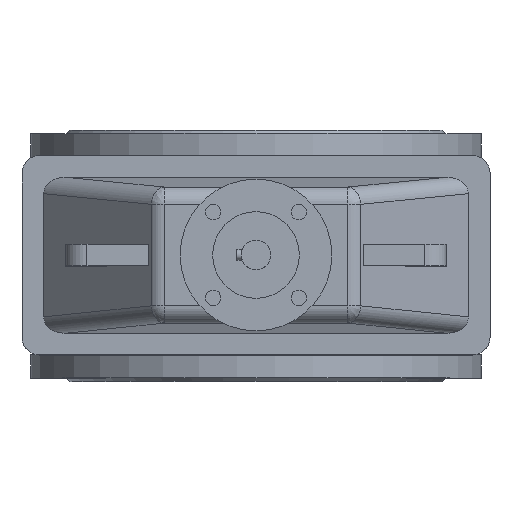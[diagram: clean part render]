
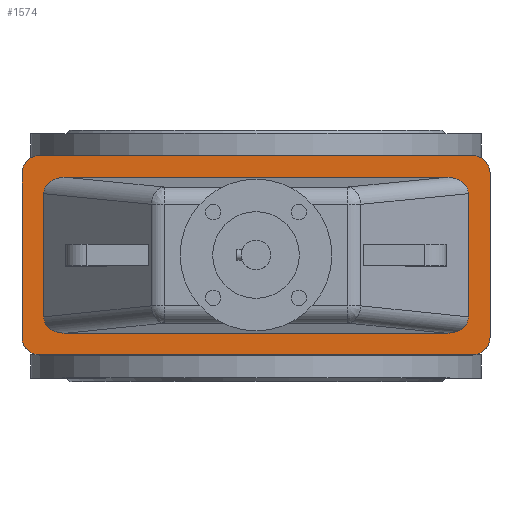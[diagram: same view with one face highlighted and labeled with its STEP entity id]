
A CAD part, top view. The second image highlights one B-rep face of the part: STEP entity #1574.
In plain terms, the highlighted planar face has unit normal (0, 0, 1).
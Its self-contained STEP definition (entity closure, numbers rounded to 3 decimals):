
#1574=ADVANCED_FACE('',(#4082,#4084),#4086,.T.);
#4082=FACE_BOUND('',#4083,.T.);
#4083=EDGE_LOOP('',(#5541,#5542,#5543,#5544,#5545,#5546,#5547,#5548));
#4084=FACE_BOUND('',#4085,.T.);
#4085=EDGE_LOOP('',(#5549,#5550,#5551,#5552,#5553,#5554,#5555,#5556));
#4086=PLANE('',#4087);
#4087=AXIS2_PLACEMENT_3D('',#4088,#4089,#4090);
#4088=CARTESIAN_POINT('',(0.,0.,466.));
#4089=DIRECTION('',(0.,-0.,1.));
#4090=DIRECTION('',(0.,1.,0.));
#5541=ORIENTED_EDGE('',*,*,#6122,.F.);
#5542=ORIENTED_EDGE('',*,*,#6135,.T.);
#5543=ORIENTED_EDGE('',*,*,#6134,.F.);
#5544=ORIENTED_EDGE('',*,*,#6132,.T.);
#5545=ORIENTED_EDGE('',*,*,#6130,.F.);
#5546=ORIENTED_EDGE('',*,*,#6128,.T.);
#5547=ORIENTED_EDGE('',*,*,#6126,.F.);
#5548=ORIENTED_EDGE('',*,*,#6123,.T.);
#5549=ORIENTED_EDGE('',*,*,#6136,.F.);
#5550=ORIENTED_EDGE('',*,*,#6137,.F.);
#5551=ORIENTED_EDGE('',*,*,#6138,.F.);
#5552=ORIENTED_EDGE('',*,*,#6139,.F.);
#5553=ORIENTED_EDGE('',*,*,#6140,.F.);
#5554=ORIENTED_EDGE('',*,*,#6141,.F.);
#5555=ORIENTED_EDGE('',*,*,#6142,.F.);
#5556=ORIENTED_EDGE('',*,*,#6143,.F.);
#6122=EDGE_CURVE('',#6889,#6887,#6891,.F.);
#6123=EDGE_CURVE('',#6892,#6887,#6893,.T.);
#6126=EDGE_CURVE('',#6892,#6895,#6897,.F.);
#6128=EDGE_CURVE('',#6898,#6895,#6900,.T.);
#6130=EDGE_CURVE('',#6898,#6901,#6903,.F.);
#6132=EDGE_CURVE('',#6904,#6901,#6906,.T.);
#6134=EDGE_CURVE('',#6904,#6907,#6909,.F.);
#6135=EDGE_CURVE('',#6889,#6907,#6910,.T.);
#6136=EDGE_CURVE('',#6911,#6912,#6913,.F.);
#6137=EDGE_CURVE('',#6914,#6911,#6915,.T.);
#6138=EDGE_CURVE('',#6916,#6914,#6917,.T.);
#6139=EDGE_CURVE('',#6918,#6916,#6919,.T.);
#6140=EDGE_CURVE('',#6920,#6918,#6921,.F.);
#6141=EDGE_CURVE('',#6922,#6920,#6923,.T.);
#6142=EDGE_CURVE('',#6924,#6922,#6925,.T.);
#6143=EDGE_CURVE('',#6912,#6924,#6926,.T.);
#6887=VERTEX_POINT('',#8690);
#6889=VERTEX_POINT('',#8694);
#6891=CIRCLE('',#8698,20.);
#6892=VERTEX_POINT('',#8702);
#6893=LINE('',#8703,#8704);
#6895=VERTEX_POINT('',#8709);
#6897=CIRCLE('',#8713,20.);
#6898=VERTEX_POINT('',#8717);
#6900=LINE('',#8721,#8722);
#6901=VERTEX_POINT('',#8724);
#6903=CIRCLE('',#8728,20.);
#6904=VERTEX_POINT('',#8732);
#6906=LINE('',#8736,#8737);
#6907=VERTEX_POINT('',#8739);
#6909=CIRCLE('',#8743,20.);
#6910=LINE('',#8747,#8748);
#6911=VERTEX_POINT('',#8750);
#6912=VERTEX_POINT('',#8751);
#6913=(BOUNDED_CURVE()B_SPLINE_CURVE(3,
(#8752,#8753,#8754,#8755),
.UNSPECIFIED.,.F.,.F.)B_SPLINE_CURVE_WITH_KNOTS((4,4),
(0.,1.),
.UNSPECIFIED.)CURVE()GEOMETRIC_REPRESENTATION_ITEM()RATIONAL_B_SPLINE_CURVE((1.,
0.818,0.818,1.))REPRESENTATION_ITEM(''));
#6914=VERTEX_POINT('',#8756);
#6915=LINE('',#8757,#8758);
#6916=VERTEX_POINT('',#8760);
#6917=(BOUNDED_CURVE()B_SPLINE_CURVE(3,
(#8761,#8762,#8763,#8764),
.UNSPECIFIED.,.F.,.F.)B_SPLINE_CURVE_WITH_KNOTS((4,4),
(0.,1.),
.UNSPECIFIED.)CURVE()GEOMETRIC_REPRESENTATION_ITEM()RATIONAL_B_SPLINE_CURVE((1.,
0.818,0.818,1.))REPRESENTATION_ITEM(''));
#6918=VERTEX_POINT('',#8765);
#6919=LINE('',#8766,#8767);
#6920=VERTEX_POINT('',#8769);
#6921=(BOUNDED_CURVE()B_SPLINE_CURVE(3,
(#8770,#8771,#8772,#8773),
.UNSPECIFIED.,.F.,.F.)B_SPLINE_CURVE_WITH_KNOTS((4,4),
(0.,1.),
.UNSPECIFIED.)CURVE()GEOMETRIC_REPRESENTATION_ITEM()RATIONAL_B_SPLINE_CURVE((1.,
0.818,0.818,1.))REPRESENTATION_ITEM(''));
#6922=VERTEX_POINT('',#8774);
#6923=LINE('',#8775,#8776);
#6924=VERTEX_POINT('',#8778);
#6925=(BOUNDED_CURVE()B_SPLINE_CURVE(3,
(#8779,#8780,#8781,#8782),
.UNSPECIFIED.,.F.,.F.)B_SPLINE_CURVE_WITH_KNOTS((4,4),
(0.,1.),
.UNSPECIFIED.)CURVE()GEOMETRIC_REPRESENTATION_ITEM()RATIONAL_B_SPLINE_CURVE((1.,
0.818,0.818,1.))REPRESENTATION_ITEM(''));
#6926=LINE('',#8783,#8784);
#8690=CARTESIAN_POINT('',(-270.,-95.,466.));
#8694=CARTESIAN_POINT('',(-250.,-115.,466.));
#8698=AXIS2_PLACEMENT_3D('',#8699,#8700,#8701);
#8699=CARTESIAN_POINT('',(-250.,-95.,466.));
#8700=DIRECTION('',(0.,-0.,1.));
#8701=DIRECTION('',(-1.,0.,0.));
#8702=CARTESIAN_POINT('',(-270.,95.,466.));
#8703=CARTESIAN_POINT('',(-270.,95.,466.));
#8704=VECTOR('',#8705,1.);
#8705=DIRECTION('',(0.,-1.,0.));
#8709=CARTESIAN_POINT('',(-250.,115.,466.));
#8713=AXIS2_PLACEMENT_3D('',#8714,#8715,#8716);
#8714=CARTESIAN_POINT('',(-250.,95.,466.));
#8715=DIRECTION('',(0.,-0.,1.));
#8716=DIRECTION('',(0.,1.,0.));
#8717=CARTESIAN_POINT('',(250.,115.,466.));
#8721=CARTESIAN_POINT('',(250.,115.,466.));
#8722=VECTOR('',#8723,1.);
#8723=DIRECTION('',(-1.,0.,0.));
#8724=CARTESIAN_POINT('',(270.,95.,466.));
#8728=AXIS2_PLACEMENT_3D('',#8729,#8730,#8731);
#8729=CARTESIAN_POINT('',(250.,95.,466.));
#8730=DIRECTION('',(0.,-0.,1.));
#8731=DIRECTION('',(1.,0.,0.));
#8732=CARTESIAN_POINT('',(270.,-95.,466.));
#8736=CARTESIAN_POINT('',(270.,-95.,466.));
#8737=VECTOR('',#8738,1.);
#8738=DIRECTION('',(0.,1.,0.));
#8739=CARTESIAN_POINT('',(250.,-115.,466.));
#8743=AXIS2_PLACEMENT_3D('',#8744,#8745,#8746);
#8744=CARTESIAN_POINT('',(250.,-95.,466.));
#8745=DIRECTION('',(0.,-0.,1.));
#8746=DIRECTION('',(0.,-1.,0.));
#8747=CARTESIAN_POINT('',(-250.,-115.,466.));
#8748=VECTOR('',#8749,1.);
#8749=DIRECTION('',(1.,0.,0.));
#8750=CARTESIAN_POINT('',(-245.,-71.07,466.));
#8751=CARTESIAN_POINT('',(-220.045,-90.,466.));
#8752=CARTESIAN_POINT('',(-220.045,-90.,466.));
#8753=CARTESIAN_POINT('',(-234.831,-90.,466.));
#8754=CARTESIAN_POINT('',(-245.,-82.286,466.));
#8755=CARTESIAN_POINT('',(-245.,-71.07,466.));
#8756=CARTESIAN_POINT('',(-245.,71.07,466.));
#8757=CARTESIAN_POINT('',(-245.,71.07,466.));
#8758=VECTOR('',#8759,1.);
#8759=DIRECTION('',(0.,-1.,0.));
#8760=CARTESIAN_POINT('',(-220.045,90.,466.));
#8761=CARTESIAN_POINT('',(-220.045,90.,466.));
#8762=CARTESIAN_POINT('',(-234.831,90.,466.));
#8763=CARTESIAN_POINT('',(-245.,82.286,466.));
#8764=CARTESIAN_POINT('',(-245.,71.07,466.));
#8765=CARTESIAN_POINT('',(220.045,90.,466.));
#8766=CARTESIAN_POINT('',(220.045,90.,466.));
#8767=VECTOR('',#8768,1.);
#8768=DIRECTION('',(-1.,0.,0.));
#8769=CARTESIAN_POINT('',(245.,71.07,466.));
#8770=CARTESIAN_POINT('',(220.045,90.,466.));
#8771=CARTESIAN_POINT('',(234.831,90.,466.));
#8772=CARTESIAN_POINT('',(245.,82.286,466.));
#8773=CARTESIAN_POINT('',(245.,71.07,466.));
#8774=CARTESIAN_POINT('',(245.,-71.07,466.));
#8775=CARTESIAN_POINT('',(245.,-71.07,466.));
#8776=VECTOR('',#8777,1.);
#8777=DIRECTION('',(0.,1.,0.));
#8778=CARTESIAN_POINT('',(220.045,-90.,466.));
#8779=CARTESIAN_POINT('',(220.045,-90.,466.));
#8780=CARTESIAN_POINT('',(234.831,-90.,466.));
#8781=CARTESIAN_POINT('',(245.,-82.286,466.));
#8782=CARTESIAN_POINT('',(245.,-71.07,466.));
#8783=CARTESIAN_POINT('',(-220.045,-90.,466.));
#8784=VECTOR('',#8785,1.);
#8785=DIRECTION('',(1.,0.,0.));
